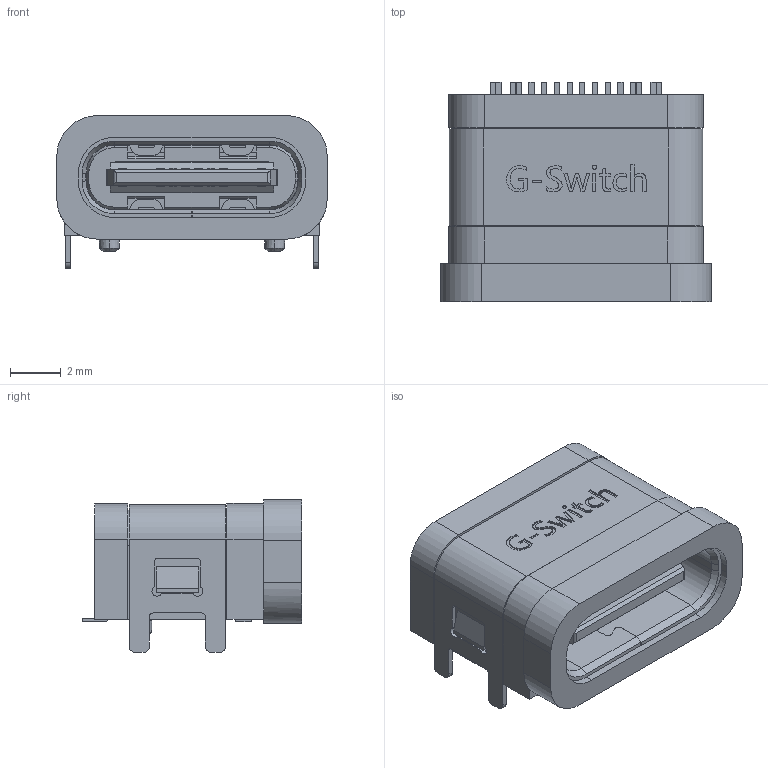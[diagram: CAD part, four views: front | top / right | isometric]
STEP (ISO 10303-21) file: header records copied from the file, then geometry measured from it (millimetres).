
FILE_DESCRIPTION (( 'STEP AP203' ), '1' );
FILE_NAME ('GT-USB-7070A01(带防水圈）.STEP', '2023-03-23T10:12:40', ( '' ), ( '' ), 'SwSTEP 2.0', 'SolidWorks 2023', '' );
FILE_SCHEMA (( 'CONFIG_CONTROL_DESIGN' ));
Length unit declared in the file: millimetre
Products named in the file (1): GT-USB-7070A01(带防水圈）
Bounding box: 10.64 x 8.65 x 6.01 mm (x, y, z)
Volume: 257.7 mm3; surface area: 941.3 mm2
Topology: 1 solids, 8 shells, 1069 faces, 3016 edges, 1963 vertices
Faces by surface type: plane 749, cylinder 221, cone 51, bspline 48
Entity records: 36585 total; most frequent: CARTESIAN_POINT 8747, ORIENTED_EDGE 6032, DIRECTION 5464, EDGE_CURVE 3016, LINE 2360, VECTOR 2360, VERTEX_POINT 1963, AXIS2_PLACEMENT_3D 1552
